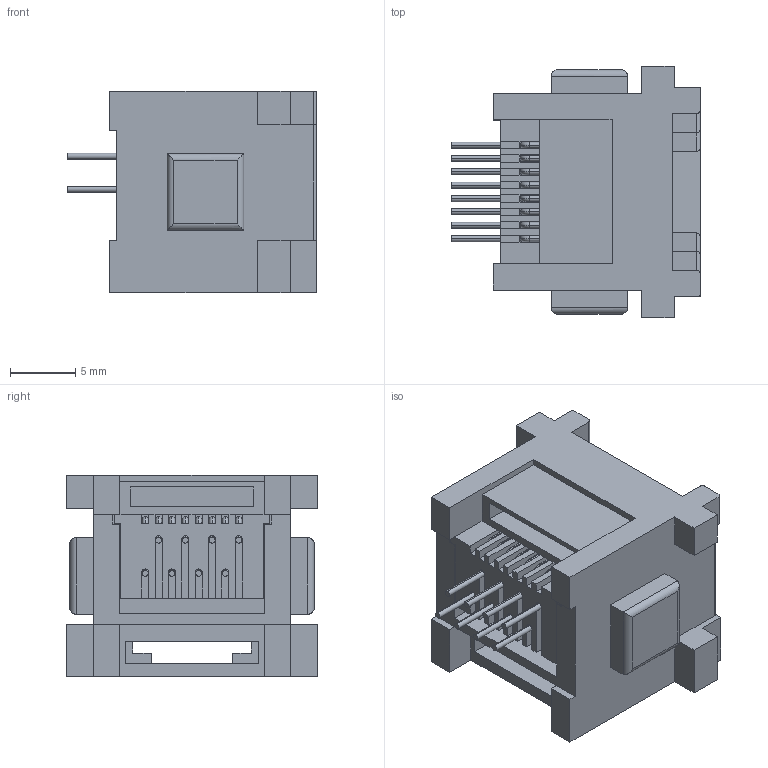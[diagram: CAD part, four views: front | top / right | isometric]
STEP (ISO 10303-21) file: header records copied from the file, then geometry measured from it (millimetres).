
FILE_DESCRIPTION((''),'2;1');
FILE_NAME('DGKYD52251188IWA1DY1095','2025-06-27T15:51:48',('DGKYD'),(''),'CREO PARAMETRIC BY PTC INC, 2019010','CREO PARAMETRIC BY PTC INC, 2019010','');
FILE_SCHEMA(('CONFIG_CONTROL_DESIGN'));
Length unit declared in the file: millimetre
Products named in the file (1): DGKYD52251188IWA1DY1095
Bounding box: 19 x 19.2 x 15.4 mm (x, y, z)
Volume: 1909.2 mm3; surface area: 3401.6 mm2
Topology: 9 solids, 9 shells, 532 faces, 1488 edges, 942 vertices
Faces by surface type: plane 285, cylinder 175, torus 72
Entity records: 17204 total; most frequent: CARTESIAN_POINT 3212, ORIENTED_EDGE 2976, DIRECTION 2914, EDGE_CURVE 1488, VECTOR 1050, LINE 1050, VERTEX_POINT 942, AXIS2_PLACEMENT_3D 932
